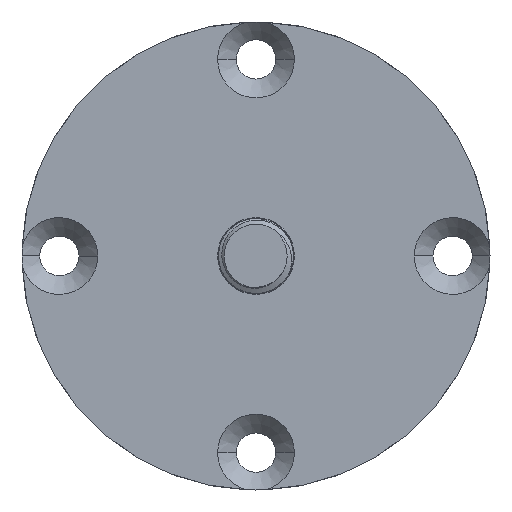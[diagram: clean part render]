
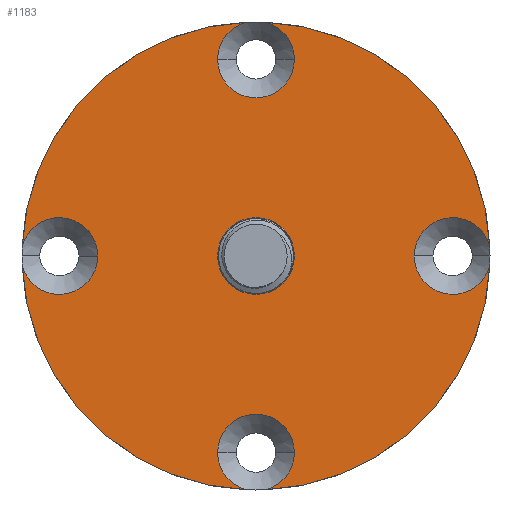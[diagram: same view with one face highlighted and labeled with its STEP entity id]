
A CAD part, front view. The second image highlights one B-rep face of the part: STEP entity #1183.
In plain terms, the highlighted planar face has unit normal (0, -1, 0) as drawn and (0, 0, 1) by its records, which use the part's own axes.
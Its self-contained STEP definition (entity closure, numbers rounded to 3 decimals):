
#53 = EDGE_CURVE ( 'NONE', #1744, #1309, #933, .T. ) ;
#63 = ORIENTED_EDGE ( 'NONE', *, *, #247, .T. ) ;
#140 = CARTESIAN_POINT ( 'NONE',  ( -24.981, -0.982, 2. ) ) ;
#141 = CIRCLE ( 'NONE', #3914, 4.1 ) ;
#247 = EDGE_CURVE ( 'NONE', #3484, #4387, #141, .T. ) ;
#306 = CIRCLE ( 'NONE', #3508, 4.1 ) ;
#367 = DIRECTION ( 'NONE',  ( 1., 0., 0. ) ) ;
#408 = CARTESIAN_POINT ( 'NONE',  ( 24.981, 0.982, 2. ) ) ;
#442 = CARTESIAN_POINT ( 'NONE',  ( 21., 0., 2. ) ) ;
#459 = CARTESIAN_POINT ( 'NONE',  ( 0., 21., 2. ) ) ;
#463 = EDGE_CURVE ( 'NONE', #1081, #1897, #545, .T. ) ;
#482 = DIRECTION ( 'NONE',  ( 1., 0., 0. ) ) ;
#502 = CARTESIAN_POINT ( 'NONE',  ( 0., 21., 2. ) ) ;
#511 = ORIENTED_EDGE ( 'NONE', *, *, #990, .F. ) ;
#514 = ORIENTED_EDGE ( 'NONE', *, *, #4392, .T. ) ;
#545 = CIRCLE ( 'NONE', #3846, 4.1 ) ;
#564 = VERTEX_POINT ( 'NONE', #3264 ) ;
#612 = VERTEX_POINT ( 'NONE', #2510 ) ;
#616 = AXIS2_PLACEMENT_3D ( 'NONE', #1069, #2985, #2959 ) ;
#648 = AXIS2_PLACEMENT_3D ( 'NONE', #2840, #2742, #4036 ) ;
#665 = EDGE_LOOP ( 'NONE', ( #958, #511 ) ) ;
#754 = DIRECTION ( 'NONE',  ( 0., 0., 1. ) ) ;
#785 = CIRCLE ( 'NONE', #1509, 25. ) ;
#824 = CARTESIAN_POINT ( 'NONE',  ( -16.9, 0., 2. ) ) ;
#849 = CIRCLE ( 'NONE', #616, 25. ) ;
#851 = DIRECTION ( 'NONE',  ( 0., 0., 1. ) ) ;
#878 = CARTESIAN_POINT ( 'NONE',  ( 0., 0., 2. ) ) ;
#896 = DIRECTION ( 'NONE',  ( 0., 0., -1. ) ) ;
#912 = DIRECTION ( 'NONE',  ( 0., 0., -1. ) ) ;
#933 = CIRCLE ( 'NONE', #1250, 25. ) ;
#958 = ORIENTED_EDGE ( 'NONE', *, *, #3122, .F. ) ;
#990 = EDGE_CURVE ( 'NONE', #3595, #612, #1472, .T. ) ;
#1058 = ORIENTED_EDGE ( 'NONE', *, *, #2540, .T. ) ;
#1069 = CARTESIAN_POINT ( 'NONE',  ( 0., 0., 2. ) ) ;
#1078 = ORIENTED_EDGE ( 'NONE', *, *, #3064, .T. ) ;
#1081 = VERTEX_POINT ( 'NONE', #3531 ) ;
#1108 = DIRECTION ( 'NONE',  ( 1., 0., 0. ) ) ;
#1140 = DIRECTION ( 'NONE',  ( 0., 0., -1. ) ) ;
#1142 = VERTEX_POINT ( 'NONE', #2154 ) ;
#1168 = DIRECTION ( 'NONE',  ( 0., 0., -1. ) ) ;
#1177 = DIRECTION ( 'NONE',  ( 0., 0., -1. ) ) ;
#1183 = ADVANCED_FACE ( 'NONE', ( #2234, #2901 ), #3714, .T. ) ;
#1229 = DIRECTION ( 'NONE',  ( 1., 0., 0. ) ) ;
#1250 = AXIS2_PLACEMENT_3D ( 'NONE', #4191, #754, #1108 ) ;
#1269 = DIRECTION ( 'NONE',  ( 1., 0., 0. ) ) ;
#1287 = AXIS2_PLACEMENT_3D ( 'NONE', #1415, #3307, #2504 ) ;
#1309 = VERTEX_POINT ( 'NONE', #1636 ) ;
#1333 = CIRCLE ( 'NONE', #4313, 4.1 ) ;
#1415 = CARTESIAN_POINT ( 'NONE',  ( 0., 0., 2. ) ) ;
#1453 = EDGE_CURVE ( 'NONE', #4609, #3503, #2955, .T. ) ;
#1458 = DIRECTION ( 'NONE',  ( 0., 0., -1. ) ) ;
#1468 = EDGE_CURVE ( 'NONE', #2727, #4609, #785, .T. ) ;
#1472 = CIRCLE ( 'NONE', #4363, 4.1 ) ;
#1487 = ORIENTED_EDGE ( 'NONE', *, *, #3314, .T. ) ;
#1509 = AXIS2_PLACEMENT_3D ( 'NONE', #2768, #851, #4720 ) ;
#1614 = ORIENTED_EDGE ( 'NONE', *, *, #4326, .T. ) ;
#1636 = CARTESIAN_POINT ( 'NONE',  ( 24.981, -0.982, 2. ) ) ;
#1679 = DIRECTION ( 'NONE',  ( 1., 0., 0. ) ) ;
#1704 = CARTESIAN_POINT ( 'NONE',  ( 21., 0., 2. ) ) ;
#1732 = CARTESIAN_POINT ( 'NONE',  ( 0., 0., 2. ) ) ;
#1744 = VERTEX_POINT ( 'NONE', #3764 ) ;
#1791 = DIRECTION ( 'NONE',  ( 1., 0., 0. ) ) ;
#1897 = VERTEX_POINT ( 'NONE', #2739 ) ;
#1988 = AXIS2_PLACEMENT_3D ( 'NONE', #502, #2033, #1679 ) ;
#2007 = AXIS2_PLACEMENT_3D ( 'NONE', #3473, #2665, #4210 ) ;
#2020 = CARTESIAN_POINT ( 'NONE',  ( -21., 0., 2. ) ) ;
#2033 = DIRECTION ( 'NONE',  ( 0., 0., -1. ) ) ;
#2139 = AXIS2_PLACEMENT_3D ( 'NONE', #3849, #1168, #4678 ) ;
#2154 = CARTESIAN_POINT ( 'NONE',  ( -0.982, 24.981, 2. ) ) ;
#2178 = CIRCLE ( 'NONE', #4669, 4.1 ) ;
#2227 = CARTESIAN_POINT ( 'NONE',  ( -21., 0., 2. ) ) ;
#2234 = FACE_OUTER_BOUND ( 'NONE', #3146, .T. ) ;
#2309 = CARTESIAN_POINT ( 'NONE',  ( -4.1, -21., 2. ) ) ;
#2374 = CIRCLE ( 'NONE', #2783, 4.1 ) ;
#2391 = ORIENTED_EDGE ( 'NONE', *, *, #1453, .T. ) ;
#2445 = DIRECTION ( 'NONE',  ( 0., 0., 1. ) ) ;
#2504 = DIRECTION ( 'NONE',  ( 1., 0., 0. ) ) ;
#2510 = CARTESIAN_POINT ( 'NONE',  ( -4.1, 0., 2. ) ) ;
#2540 = EDGE_CURVE ( 'NONE', #3503, #564, #306, .T. ) ;
#2603 = ORIENTED_EDGE ( 'NONE', *, *, #2909, .T. ) ;
#2625 = VERTEX_POINT ( 'NONE', #408 ) ;
#2665 = DIRECTION ( 'NONE',  ( 0., 0., 1. ) ) ;
#2727 = VERTEX_POINT ( 'NONE', #140 ) ;
#2739 = CARTESIAN_POINT ( 'NONE',  ( -4.1, 21., 2. ) ) ;
#2742 = DIRECTION ( 'NONE',  ( 0., 0., -1. ) ) ;
#2744 = VERTEX_POINT ( 'NONE', #4784 ) ;
#2749 = CARTESIAN_POINT ( 'NONE',  ( -24.981, 0.982, 2. ) ) ;
#2768 = CARTESIAN_POINT ( 'NONE',  ( 0., 0., 2. ) ) ;
#2772 = CARTESIAN_POINT ( 'NONE',  ( 4.1, 0., 2. ) ) ;
#2783 = AXIS2_PLACEMENT_3D ( 'NONE', #1732, #2885, #482 ) ;
#2803 = CIRCLE ( 'NONE', #648, 4.1 ) ;
#2840 = CARTESIAN_POINT ( 'NONE',  ( 0., 21., 2. ) ) ;
#2885 = DIRECTION ( 'NONE',  ( 0., 0., 1. ) ) ;
#2901 = FACE_BOUND ( 'NONE', #665, .T. ) ;
#2909 = EDGE_CURVE ( 'NONE', #1309, #2744, #1333, .T. ) ;
#2942 = CARTESIAN_POINT ( 'NONE',  ( 0., -21., 2. ) ) ;
#2955 = CIRCLE ( 'NONE', #4583, 4.1 ) ;
#2959 = DIRECTION ( 'NONE',  ( 1., 0., 0. ) ) ;
#2985 = DIRECTION ( 'NONE',  ( 0., 0., 1. ) ) ;
#3064 = EDGE_CURVE ( 'NONE', #3253, #1081, #4972, .T. ) ;
#3122 = EDGE_CURVE ( 'NONE', #612, #3595, #2374, .T. ) ;
#3131 = AXIS2_PLACEMENT_3D ( 'NONE', #442, #1140, #4270 ) ;
#3146 = EDGE_LOOP ( 'NONE', ( #3246, #1078, #3507, #514, #1487, #63, #1614, #4504, #2391, #1058, #4802, #3762, #2603, #3488 ) ) ;
#3149 = DIRECTION ( 'NONE',  ( 0., 0., -1. ) ) ;
#3246 = ORIENTED_EDGE ( 'NONE', *, *, #4643, .T. ) ;
#3253 = VERTEX_POINT ( 'NONE', #3337 ) ;
#3264 = CARTESIAN_POINT ( 'NONE',  ( 4.1, -21., 2. ) ) ;
#3307 = DIRECTION ( 'NONE',  ( 0., 0., 1. ) ) ;
#3314 = EDGE_CURVE ( 'NONE', #1142, #3484, #849, .T. ) ;
#3337 = CARTESIAN_POINT ( 'NONE',  ( 0.982, 24.981, 2. ) ) ;
#3441 = EDGE_CURVE ( 'NONE', #564, #1744, #4807, .T. ) ;
#3473 = CARTESIAN_POINT ( 'NONE',  ( 0., 0., 2. ) ) ;
#3484 = VERTEX_POINT ( 'NONE', #2749 ) ;
#3488 = ORIENTED_EDGE ( 'NONE', *, *, #4052, .T. ) ;
#3503 = VERTEX_POINT ( 'NONE', #2309 ) ;
#3507 = ORIENTED_EDGE ( 'NONE', *, *, #463, .T. ) ;
#3508 = AXIS2_PLACEMENT_3D ( 'NONE', #2942, #3758, #1791 ) ;
#3531 = CARTESIAN_POINT ( 'NONE',  ( 4.1, 21., 2. ) ) ;
#3593 = DIRECTION ( 'NONE',  ( 1., 0., 0. ) ) ;
#3595 = VERTEX_POINT ( 'NONE', #2772 ) ;
#3601 = DIRECTION ( 'NONE',  ( 1., 0., 0. ) ) ;
#3714 = PLANE ( 'NONE',  #1287 ) ;
#3758 = DIRECTION ( 'NONE',  ( 0., 0., -1. ) ) ;
#3762 = ORIENTED_EDGE ( 'NONE', *, *, #53, .T. ) ;
#3764 = CARTESIAN_POINT ( 'NONE',  ( 0.982, -24.981, 2. ) ) ;
#3781 = CARTESIAN_POINT ( 'NONE',  ( -0.982, -24.981, 2. ) ) ;
#3846 = AXIS2_PLACEMENT_3D ( 'NONE', #459, #1177, #367 ) ;
#3849 = CARTESIAN_POINT ( 'NONE',  ( 0., -21., 2. ) ) ;
#3914 = AXIS2_PLACEMENT_3D ( 'NONE', #2227, #1458, #4905 ) ;
#4036 = DIRECTION ( 'NONE',  ( 1., 0., 0. ) ) ;
#4052 = EDGE_CURVE ( 'NONE', #2744, #2625, #4839, .T. ) ;
#4191 = CARTESIAN_POINT ( 'NONE',  ( 0., 0., 2. ) ) ;
#4192 = CIRCLE ( 'NONE', #2007, 25. ) ;
#4210 = DIRECTION ( 'NONE',  ( 1., 0., 0. ) ) ;
#4270 = DIRECTION ( 'NONE',  ( 1., 0., 0. ) ) ;
#4313 = AXIS2_PLACEMENT_3D ( 'NONE', #1704, #912, #1269 ) ;
#4326 = EDGE_CURVE ( 'NONE', #4387, #2727, #2178, .T. ) ;
#4363 = AXIS2_PLACEMENT_3D ( 'NONE', #878, #2445, #3601 ) ;
#4387 = VERTEX_POINT ( 'NONE', #824 ) ;
#4392 = EDGE_CURVE ( 'NONE', #1897, #1142, #2803, .T. ) ;
#4504 = ORIENTED_EDGE ( 'NONE', *, *, #1468, .T. ) ;
#4583 = AXIS2_PLACEMENT_3D ( 'NONE', #4674, #3149, #1229 ) ;
#4609 = VERTEX_POINT ( 'NONE', #3781 ) ;
#4643 = EDGE_CURVE ( 'NONE', #2625, #3253, #4192, .T. ) ;
#4669 = AXIS2_PLACEMENT_3D ( 'NONE', #2020, #896, #3593 ) ;
#4674 = CARTESIAN_POINT ( 'NONE',  ( 0., -21., 2. ) ) ;
#4678 = DIRECTION ( 'NONE',  ( 1., 0., 0. ) ) ;
#4720 = DIRECTION ( 'NONE',  ( 1., 0., 0. ) ) ;
#4784 = CARTESIAN_POINT ( 'NONE',  ( 16.9, 0., 2. ) ) ;
#4802 = ORIENTED_EDGE ( 'NONE', *, *, #3441, .T. ) ;
#4807 = CIRCLE ( 'NONE', #2139, 4.1 ) ;
#4839 = CIRCLE ( 'NONE', #3131, 4.1 ) ;
#4905 = DIRECTION ( 'NONE',  ( 1., 0., 0. ) ) ;
#4972 = CIRCLE ( 'NONE', #1988, 4.1 ) ;
